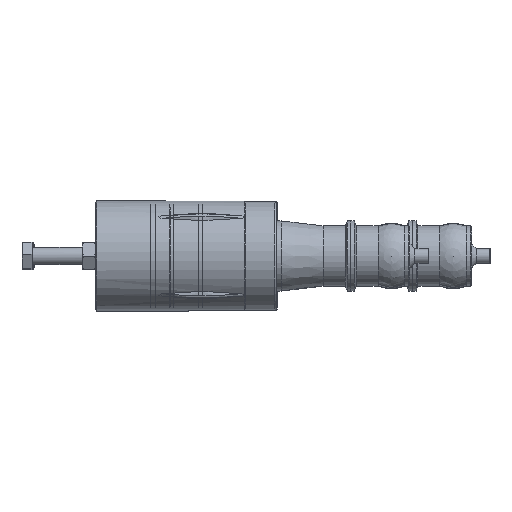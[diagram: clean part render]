
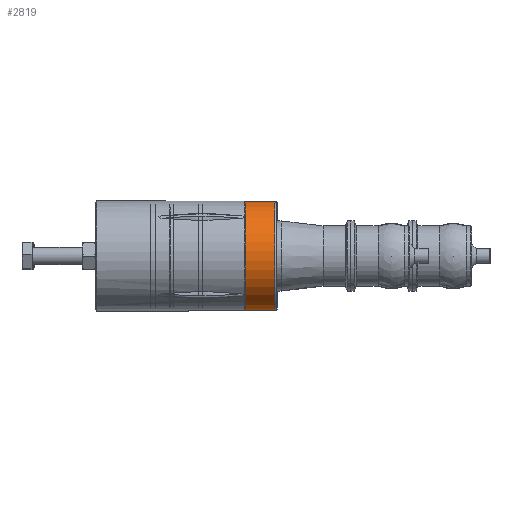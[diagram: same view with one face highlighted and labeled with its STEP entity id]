
A CAD part, left-side view. The second image highlights one B-rep face of the part: STEP entity #2819.
In plain terms, the highlighted cylindrical face has radius 44.25 mm (diameter 88.5 mm), a full revolution.
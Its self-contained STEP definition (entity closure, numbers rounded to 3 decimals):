
#2682=CARTESIAN_POINT('',(-31.289,168.5,31.289));
#2683=VERTEX_POINT('',#2682);
#2684=CARTESIAN_POINT('',(0.,168.5,0.));
#2685=DIRECTION('',(0.,-1.,0.));
#2686=DIRECTION('',(-0.707,0.,0.707));
#2687=AXIS2_PLACEMENT_3D('',#2684,#2685,#2686);
#2688=CIRCLE('',#2687,44.25);
#2689=EDGE_CURVE('',#2683,#2683,#2688,.T.);
#2718=CARTESIAN_POINT('',(-31.289,192.5,31.289));
#2719=VERTEX_POINT('',#2718);
#2720=CARTESIAN_POINT('',(0.,192.5,0.));
#2721=DIRECTION('',(0.,-1.,0.));
#2722=DIRECTION('',(-0.707,0.,0.707));
#2723=AXIS2_PLACEMENT_3D('',#2720,#2721,#2722);
#2724=CIRCLE('',#2723,44.25);
#2725=EDGE_CURVE('',#2719,#2719,#2724,.T.);
#2730=CARTESIAN_POINT('',(0.,180.5,0.));
#2731=DIRECTION('',(0.,-1.0,0.));
#2732=DIRECTION('',(-0.707,0.,0.707));
#2733=AXIS2_PLACEMENT_3D('',#2730,#2731,#2732);
#2734=CYLINDRICAL_SURFACE('',#2733,44.25);
#2735=ORIENTED_EDGE('',*,*,#2689,.F.);
#2736=EDGE_LOOP('',(#2735));
#2737=FACE_OUTER_BOUND('',#2736,.T.);
#2738=CARTESIAN_POINT('',(44.042,180.,4.283));
#2739=VERTEX_POINT('',#2738);
#2740=CARTESIAN_POINT('',(44.25,184.283,0.));
#2741=VERTEX_POINT('',#2740);
#2742=CARTESIAN_POINT('',(44.042,180.,4.283));
#2743=CARTESIAN_POINT('',(44.042,180.538,4.283));
#2744=CARTESIAN_POINT('',(44.053,181.112,4.175));
#2745=CARTESIAN_POINT('',(44.092,182.167,3.738));
#2746=CARTESIAN_POINT('',(44.12,182.648,3.409));
#2747=CARTESIAN_POINT('',(44.172,183.409,2.648));
#2748=CARTESIAN_POINT('',(44.2,183.738,2.167));
#2749=CARTESIAN_POINT('',(44.239,184.175,1.112));
#2750=CARTESIAN_POINT('',(44.25,184.283,0.538));
#2751=CARTESIAN_POINT('',(44.25,184.283,0.));
#2752=B_SPLINE_CURVE_WITH_KNOTS('',3,(#2742,#2743,#2744,#2745,#2746,#2747,#2748,#2749,#2750,#2751),.UNSPECIFIED.,.F.,.U.,(4,2,2,2,4),(0.0,0.161,0.323,0.484,0.646),.UNSPECIFIED.);
#2753=EDGE_CURVE('',#2739,#2741,#2752,.T.);
#2754=ORIENTED_EDGE('',*,*,#2753,.T.);
#2755=CARTESIAN_POINT('',(44.25,186.461,0.));
#2756=VERTEX_POINT('',#2755);
#2757=CARTESIAN_POINT('',(44.25,186.461,0.));
#2758=DIRECTION('',(0.0,-1.0,0.0));
#2759=VECTOR('',#2758,2.178);
#2760=LINE('',#2757,#2759);
#2761=EDGE_CURVE('',#2756,#2741,#2760,.T.);
#2762=ORIENTED_EDGE('',*,*,#2761,.F.);
#2763=ORIENTED_EDGE('',*,*,#2761,.T.);
#2764=CARTESIAN_POINT('',(44.25,175.717,0.));
#2765=VERTEX_POINT('',#2764);
#2766=CARTESIAN_POINT('',(44.25,184.283,0.));
#2767=CARTESIAN_POINT('',(44.25,184.283,-0.538));
#2768=CARTESIAN_POINT('',(44.239,184.175,-1.112));
#2769=CARTESIAN_POINT('',(44.2,183.738,-2.167));
#2770=CARTESIAN_POINT('',(44.172,183.409,-2.648));
#2771=CARTESIAN_POINT('',(44.12,182.648,-3.409));
#2772=CARTESIAN_POINT('',(44.092,182.167,-3.738));
#2773=CARTESIAN_POINT('',(44.053,181.112,-4.175));
#2774=CARTESIAN_POINT('',(44.042,180.538,-4.283));
#2775=CARTESIAN_POINT('',(44.042,179.462,-4.283));
#2776=CARTESIAN_POINT('',(44.053,178.888,-4.175));
#2777=CARTESIAN_POINT('',(44.092,177.833,-3.738));
#2778=CARTESIAN_POINT('',(44.12,177.352,-3.409));
#2779=CARTESIAN_POINT('',(44.172,176.591,-2.648));
#2780=CARTESIAN_POINT('',(44.2,176.262,-2.167));
#2781=CARTESIAN_POINT('',(44.239,175.825,-1.112));
#2782=CARTESIAN_POINT('',(44.25,175.717,-0.538));
#2783=CARTESIAN_POINT('',(44.25,175.717,0.));
#2784=B_SPLINE_CURVE_WITH_KNOTS('',3,(#2766,#2767,#2768,#2769,#2770,#2771,#2772,#2773,#2774,#2775,#2776,#2777,#2778,#2779,#2780,#2781,#2782,#2783),.UNSPECIFIED.,.F.,.U.,(4,2,2,2,2,2,2,2,4),(0.646,0.807,0.969,1.13,1.292,1.453,1.614,1.776,1.937),.UNSPECIFIED.);
#2785=EDGE_CURVE('',#2741,#2765,#2784,.T.);
#2786=ORIENTED_EDGE('',*,*,#2785,.T.);
#2787=CARTESIAN_POINT('',(44.25,173.539,0.));
#2788=VERTEX_POINT('',#2787);
#2789=CARTESIAN_POINT('',(44.25,175.717,0.));
#2790=DIRECTION('',(0.0,-1.0,0.0));
#2791=VECTOR('',#2790,2.178);
#2792=LINE('',#2789,#2791);
#2793=EDGE_CURVE('',#2765,#2788,#2792,.T.);
#2794=ORIENTED_EDGE('',*,*,#2793,.T.);
#2795=CARTESIAN_POINT('',(44.25,175.717,0.));
#2796=DIRECTION('',(0.0,-1.0,0.0));
#2797=VECTOR('',#2796,2.178);
#2798=LINE('',#2795,#2797);
#2799=EDGE_CURVE('',#2765,#2788,#2798,.T.);
#2800=ORIENTED_EDGE('',*,*,#2799,.F.);
#2801=CARTESIAN_POINT('',(44.25,175.717,0.));
#2802=CARTESIAN_POINT('',(44.25,175.717,0.538));
#2803=CARTESIAN_POINT('',(44.239,175.825,1.112));
#2804=CARTESIAN_POINT('',(44.2,176.262,2.167));
#2805=CARTESIAN_POINT('',(44.172,176.591,2.648));
#2806=CARTESIAN_POINT('',(44.12,177.352,3.409));
#2807=CARTESIAN_POINT('',(44.092,177.833,3.738));
#2808=CARTESIAN_POINT('',(44.053,178.888,4.175));
#2809=CARTESIAN_POINT('',(44.042,179.462,4.283));
#2810=CARTESIAN_POINT('',(44.042,180.,4.283));
#2811=B_SPLINE_CURVE_WITH_KNOTS('',3,(#2801,#2802,#2803,#2804,#2805,#2806,#2807,#2808,#2809,#2810),.UNSPECIFIED.,.F.,.U.,(4,2,2,2,4),(1.937,2.099,2.26,2.422,2.583),.UNSPECIFIED.);
#2812=EDGE_CURVE('',#2765,#2739,#2811,.T.);
#2813=ORIENTED_EDGE('',*,*,#2812,.T.);
#2814=EDGE_LOOP('',(#2754,#2762,#2763,#2786,#2794,#2800,#2813));
#2815=FACE_BOUND('',#2814,.T.);
#2816=ORIENTED_EDGE('',*,*,#2725,.T.);
#2817=EDGE_LOOP('',(#2816));
#2818=FACE_BOUND('',#2817,.T.);
#2819=ADVANCED_FACE('',(#2737,#2815,#2818),#2734,.T.);
